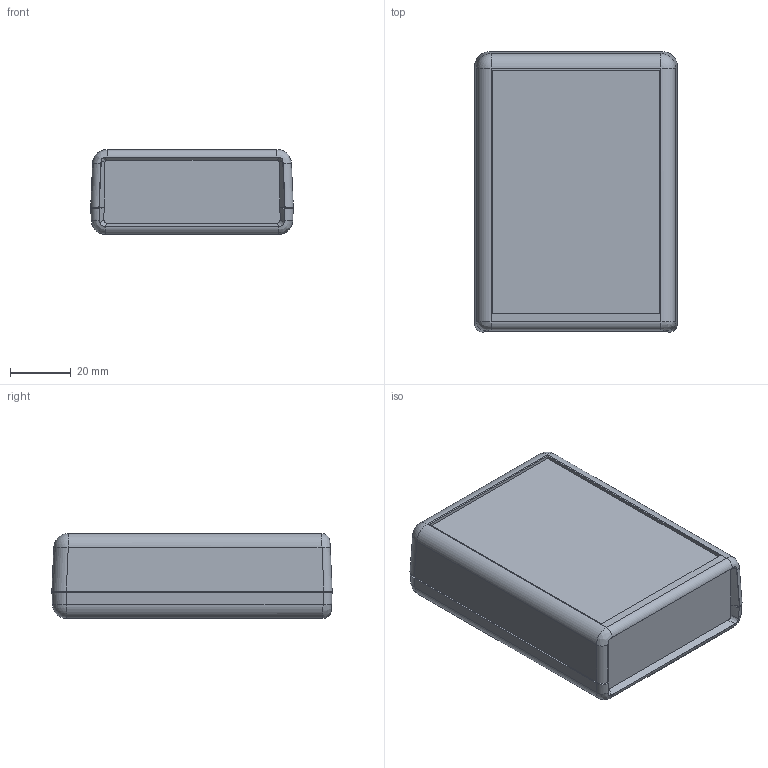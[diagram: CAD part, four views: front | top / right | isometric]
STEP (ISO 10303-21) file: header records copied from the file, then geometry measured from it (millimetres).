
FILE_DESCRIPTION(/* description */ (''),/* implementation_level */ '2;1');
FILE_NAME(/* name */ 'E:\Eng\Customer Service\Drawings\working on 1593\STEP\1593P\1593P.iam.stp',/* time_stamp */ '2016-04-25T15:45:22-04:00',/* author */ ('lwalsh'),/* organization */ (''),/* preprocessor_version */ 'ST-DEVELOPER v16.1',/* originating_system */ 'Autodesk Inventor 2016',/* authorisation */ '');
FILE_SCHEMA (('AUTOMOTIVE_DESIGN { 1 0 10303 214 3 1 1 }'));
Products named in the file (7): 1593P, S Bottom; 1593P Top; 1593K-L-P-Q-X-Y Flat endplate; 1593P,Q,S,T,Y Battery Cover; 1593P,S PCB; #19979; 1593P
Assembly tree (5 placements, depth 2):
  #19979
  1593P
    1593P, S Bottom
    1593P Top
    1593K-L-P-Q-X-Y Flat endplate
    1593P,Q,S,T,Y Battery Cover
    1593P,S PCB
Bounding box: 66.5 x 92 x 27.9 mm (x, y, z)
Volume: 53873.6 mm3; surface area: 51652.5 mm2
Topology: 9 solids, 9 shells, 730 faces, 1901 edges, 1245 vertices
Faces by surface type: plane 417, cylinder 157, bspline 78, cone 46, torus 18, sphere 14
Full cylindrical faces by diameter (mm): 2.25 x8, 2.311 x4, 2.8 x4, 2.845 x4, 2.9 x8, 3 x4, 3.2 x4, 5.8 x4
Entity records: 19969 total; most frequent: CARTESIAN_POINT 4694, ORIENTED_EDGE 3148, DIRECTION 2946, EDGE_CURVE 1574, VERTEX_POINT 1064, LINE 1000, VECTOR 1000, AXIS2_PLACEMENT_3D 973
